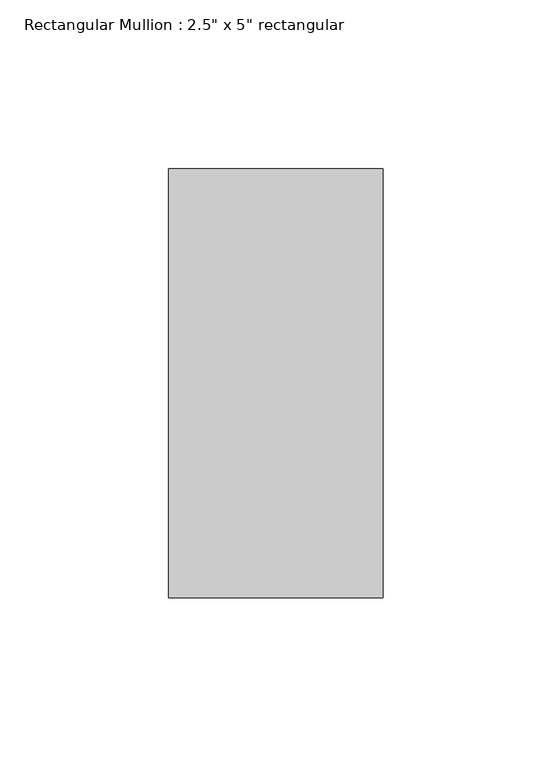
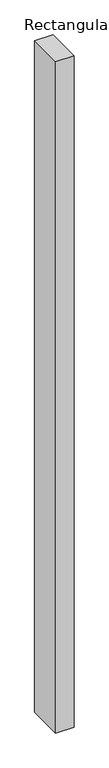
"""IFC4 building model written with IfcOpenShell, lengths in millimetres: member geometry."""

import ifcopenshell
import ifcopenshell.guid

model = None  # the IFC model being written
_history = None  # IfcOwnerHistory: only IFC2X3 demands one
_inside = {}  # id of a spatial element -> (the spatial element, [elements in it])
_under = {}  # id of a project, library or spatial element -> (it, [spatial elements below it])
_declared = {}  # id of a project -> (the project, [libraries it declares])
_typed = {}  # id of a type object -> (the type object, [elements of that type])
_made_of = {}  # id of a material, layer set ... -> (it, [elements and type objects made of it])


def new_model(schema):
    """Start an empty IFC model of exactly this schema.

    Asked for "IFC4X3", IfcOpenShell would pick the latest addendum, in which some entities
    have other attributes; the version numbers below select the first issue.
    IFC2X3 requires an IfcOwnerHistory on every rooted entity: one is made here for all.
    """
    global model, _history
    if schema == "IFC4X3":
        model = ifcopenshell.file(schema_version=(4, 3, 0, 0))
    else:
        model = ifcopenshell.file(schema=schema)
    _inside.clear()
    _under.clear()
    _declared.clear()
    _typed.clear()
    _made_of.clear()
    _history = None
    if model.schema == "IFC2X3":
        org = make("IfcOrganization", Name="unknown")
        user = make(
            "IfcPersonAndOrganization",
            ThePerson=make("IfcPerson", FamilyName="unknown"),
            TheOrganization=org,
        )
        app = make(
            "IfcApplication",
            ApplicationDeveloper=org,
            Version="unknown",
            ApplicationFullName="unknown",
            ApplicationIdentifier="unknown",
        )
        _history = make(
            "IfcOwnerHistory",
            OwningUser=user,
            OwningApplication=app,
            ChangeAction="ADDED",
            CreationDate=0,
        )
    return model


def make(cls, **values):
    """One entity of the class cls with the attributes given. An attribute that is None is left unset."""
    return model.create_entity(
        cls, **{name: value for name, value in values.items() if value is not None}
    )


def rooted(cls, **values):
    """An entity with a GlobalId (a new one), such as an element, a storey or a relation."""
    return make(cls, GlobalId=ifcopenshell.guid.new(), OwnerHistory=_history, **values)


def si_unit(unit_type, name, prefix=None):
    """IfcSIUnit, for example si_unit("LENGTHUNIT", "METRE", prefix="MILLI")."""
    return make("IfcSIUnit", UnitType=unit_type, Prefix=prefix, Name=name)


def assignment(units):
    """IfcUnitAssignment: the units of a project."""
    return None if units is None else make("IfcUnitAssignment", Units=units)


def point(xyz):
    """IfcCartesianPoint."""
    return None if xyz is None else make("IfcCartesianPoint", Coordinates=xyz)


def direction(xyz):
    """IfcDirection."""
    return None if xyz is None else make("IfcDirection", DirectionRatios=xyz)


def frame(location, z_axis=None, x_axis=None):
    """IfcAxis2Placement3D, a coordinate frame: its origin and axes. An axis left out is left unset."""
    return make(
        "IfcAxis2Placement3D",
        Location=point(location),
        Axis=direction(z_axis),
        RefDirection=direction(x_axis),
    )


def origin():
    """The frame at (0, 0, 0) with its axes left unset."""
    return frame((0.0, 0.0, 0.0))


def place(relative_to, where):
    """IfcLocalPlacement: puts the frame where relative to a parent placement (None: the world)."""
    return make(
        "IfcLocalPlacement", PlacementRelTo=relative_to, RelativePlacement=where
    )


def context(
    kind, dimensions, precision=None, world=None, true_north=None, identifier=None
):
    """IfcGeometricRepresentationContext, for example the 3D "Model" context."""
    return make(
        "IfcGeometricRepresentationContext",
        ContextIdentifier=identifier,
        ContextType=kind,
        CoordinateSpaceDimension=dimensions,
        Precision=precision,
        WorldCoordinateSystem=world,
        TrueNorth=true_north,
    )


def project(units=None, contexts=None):
    """IfcProject with its units and contexts."""
    return rooted(
        "IfcProject",
        Name="project",
        RepresentationContexts=contexts,
        UnitsInContext=assignment(units),
    )


def spatial(cls, under=None, at=None, **own):
    """A site, building, storey or space (cls), placed at a placement, below another one or the project."""
    s = rooted(cls, ObjectPlacement=at, **own)
    if under is not None:
        _under.setdefault(under.id(), (under, []))[1].append(s)
    return s


def polyline(points):
    """IfcPolyline through the points."""
    return make("IfcPolyline", Points=[point(p) for p in points])


def outline(outer, holes=None, kind="AREA"):
    """IfcArbitraryClosedProfileDef: a profile drawn as a closed curve; with holes, ...WithVoids."""
    if holes is None:
        return make("IfcArbitraryClosedProfileDef", ProfileType=kind, OuterCurve=outer)
    return make(
        "IfcArbitraryProfileDefWithVoids",
        ProfileType=kind,
        OuterCurve=outer,
        InnerCurves=holes,
    )


def extrude(swept, where, along, depth):
    """IfcExtrudedAreaSolid: the profile swept, set in the frame where, extruded along a direction by depth."""
    return make(
        "IfcExtrudedAreaSolid",
        SweptArea=swept,
        Position=where,
        ExtrudedDirection=direction(along),
        Depth=depth,
    )


def shape(context_of_items, identifier, shape_type, items):
    """IfcShapeRepresentation: the items that make up one representation, for example the "Body"."""
    return make(
        "IfcShapeRepresentation",
        ContextOfItems=context_of_items,
        RepresentationIdentifier=identifier,
        RepresentationType=shape_type,
        Items=items,
    )


def source(mapping_origin, context_of_items, identifier, shape_type, items):
    """IfcRepresentationMap: a shape defined once, which mapped items show again and again."""
    return make(
        "IfcRepresentationMap",
        MappingOrigin=mapping_origin,
        MappedRepresentation=shape(context_of_items, identifier, shape_type, items),
    )


def transform(
    local_origin,
    x_axis=None,
    y_axis=None,
    z_axis=None,
    scale=None,
    scale2=None,
    scale3=None,
    uniform=True,
):
    """IfcCartesianTransformationOperator3D, or its non-uniform kind. x_axis, y_axis, z_axis: its Axis1, 2, 3."""
    if uniform:
        return make(
            "IfcCartesianTransformationOperator3D",
            Axis1=direction(x_axis),
            Axis2=direction(y_axis),
            LocalOrigin=point(local_origin),
            Scale=scale,
            Axis3=direction(z_axis),
        )
    return make(
        "IfcCartesianTransformationOperator3DnonUniform",
        Axis1=direction(x_axis),
        Axis2=direction(y_axis),
        LocalOrigin=point(local_origin),
        Scale=scale,
        Axis3=direction(z_axis),
        Scale2=scale2,
        Scale3=scale3,
    )


def mapped(mapping_source, mapping_target):
    """IfcMappedItem: shows the shape of a source again, moved by a transform."""
    return make(
        "IfcMappedItem", MappingSource=mapping_source, MappingTarget=mapping_target
    )


def made_of(thing, what):
    """Note that an element or type object is made of a material, layer set ...; save() writes the relation."""
    if what is not None:
        _made_of.setdefault(what.id(), (what, []))[1].append(thing)
    return thing


def element(
    cls,
    number,
    at=None,
    inside=None,
    cuts=None,
    type_object=None,
    material=None,
    context=None,
    identifier="Body",
    shape_type=None,
    held_by="IfcProductDefinitionShape",
    body=None,
    shapes=None,
    **own,
):
    """One element of the class cls, such as IfcWall. Its Tag is "e" and its number.

    at: its placement. inside: the storey or other place that contains it. cuts: it is an
    opening in that element (IfcRelVoidsElement). A single representation is given by context,
    identifier, shape_type and body (its items); several are given by shapes. held_by: the class
    of the entity that holds the representations. save() writes the other relations.
    """
    e = rooted(cls, Tag="e%d" % number, ObjectPlacement=at, **own)
    if body is not None:
        shapes = [shape(context, identifier, shape_type, body)]
    if shapes is not None:
        e.Representation = make(held_by, Representations=shapes)
    if inside is not None:
        _inside.setdefault(inside.id(), (inside, []))[1].append(e)
    if cuts is not None:
        rooted(
            "IfcRelVoidsElement", RelatingBuildingElement=cuts, RelatedOpeningElement=e
        )
    if type_object is not None:
        _typed.setdefault(type_object.id(), (type_object, []))[1].append(e)
    return made_of(e, material)


def aggregate(whole, parts):
    """IfcRelAggregates: a whole, such as a stair, and the parts it consists of."""
    return rooted("IfcRelAggregates", RelatingObject=whole, RelatedObjects=parts)


def save(model, path):
    """Write the relations noted so far, then the file.

    IfcRelAggregates (storeys below a building ...), IfcRelContainedInSpatialStructure (elements
    in a storey), IfcRelDefinesByType, IfcRelAssociatesMaterial and IfcRelDeclares: one each for
    every whole, place, type object, material and project.
    """
    for whole, parts in _under.values():
        aggregate(whole, parts)
    for where, things in _inside.values():
        rooted(
            "IfcRelContainedInSpatialStructure",
            RelatedElements=things,
            RelatingStructure=where,
        )
    for kind, things in _typed.values():
        rooted("IfcRelDefinesByType", RelatedObjects=things, RelatingType=kind)
    for what, things in _made_of.values():
        rooted("IfcRelAssociatesMaterial", RelatedObjects=things, RelatingMaterial=what)
    for by, libraries in _declared.values():
        rooted("IfcRelDeclares", RelatingContext=by, RelatedDefinitions=libraries)
    model.write(path)


def member_1f84ea9c(model_context):
    return source(origin(), model_context, "Body", "SweptSolid", [
        extrude(outline(polyline([(0.0, 63.5), (0.0, -63.5), (-63.5, -63.5), (-63.5, 63.5), (0.0, 63.5)])), frame((0.0, 0.0, -2476.4999999), z_axis=(0.0, 0.0, 1.0), x_axis=(1.0, 0.0, 0.0)), (0.0, 0.0, 1.0), 2476.4999999),
    ])


if __name__ == "__main__":
    model = new_model("IFC4")
    model_context = context("Model", 3, world=origin())
    ifc_project = project(units=[si_unit("LENGTHUNIT", "METRE", prefix="MILLI")], contexts=[model_context])
    site = spatial("IfcSite", under=ifc_project)
    building = spatial("IfcBuilding", under=site)
    placement = place(None, origin())
    member_shape = member_1f84ea9c(model_context)
    element("IfcMember", 1, ObjectType="Rectangular Mullion : 2.5\" x 5\" rectangular", at=placement, inside=building, context=model_context, shape_type="MappedRepresentation", body=[
        mapped(member_shape, transform((0.0, 0.0, 0.0), x_axis=(1.0, 0.0, 0.0), y_axis=(0.0, 1.0, 0.0), z_axis=(0.0, 0.0, 1.0))),
    ])
    save(model, "model.ifc")
